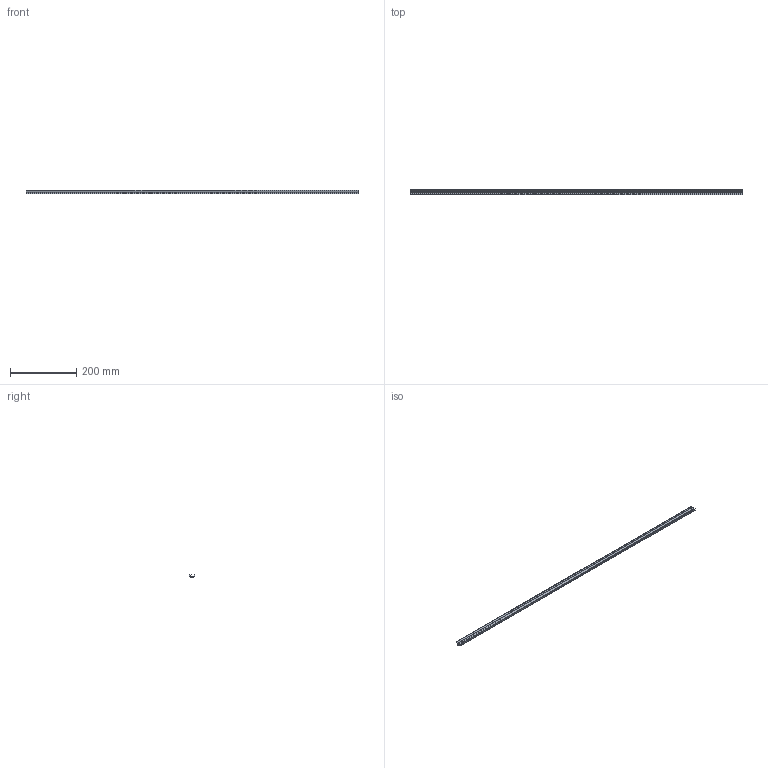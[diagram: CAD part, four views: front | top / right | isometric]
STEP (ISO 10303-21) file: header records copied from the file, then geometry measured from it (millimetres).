
FILE_DESCRIPTION (( 'STEP AP203' ), '1' );
FILE_NAME ('10097_DIC24.STEP', '2018-03-09T11:06:41', ( '' ), ( '' ), 'SwSTEP 2.0', 'SolidWorks 2017', '' );
FILE_SCHEMA (( 'CONFIG_CONTROL_DESIGN' ));
Length unit declared in the file: millimetre
Products named in the file (1): 10097_DIC24
Bounding box: 1000 x 17.97 x 10.5 mm (x, y, z)
Volume: 67800.6 mm3; surface area: 67467.4 mm2
Topology: 1 solids, 1 shells, 35 faces, 99 edges, 66 vertices
Faces by surface type: plane 19, cylinder 16
Entity records: 1233 total; most frequent: CARTESIAN_POINT 234, ORIENTED_EDGE 198, DIRECTION 192, EDGE_CURVE 99, AXIS2_PLACEMENT_3D 68, VERTEX_POINT 66, VECTOR 56, LINE 56
